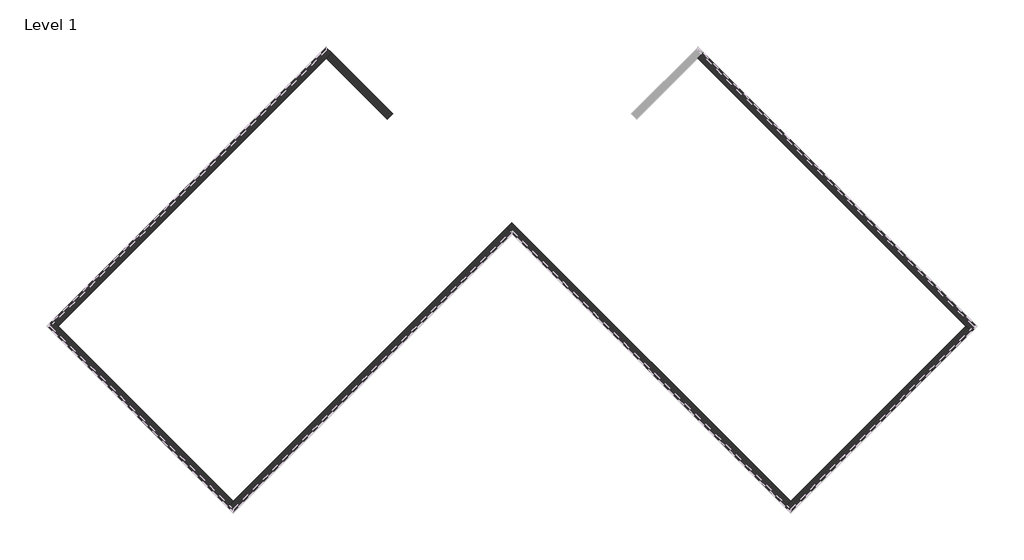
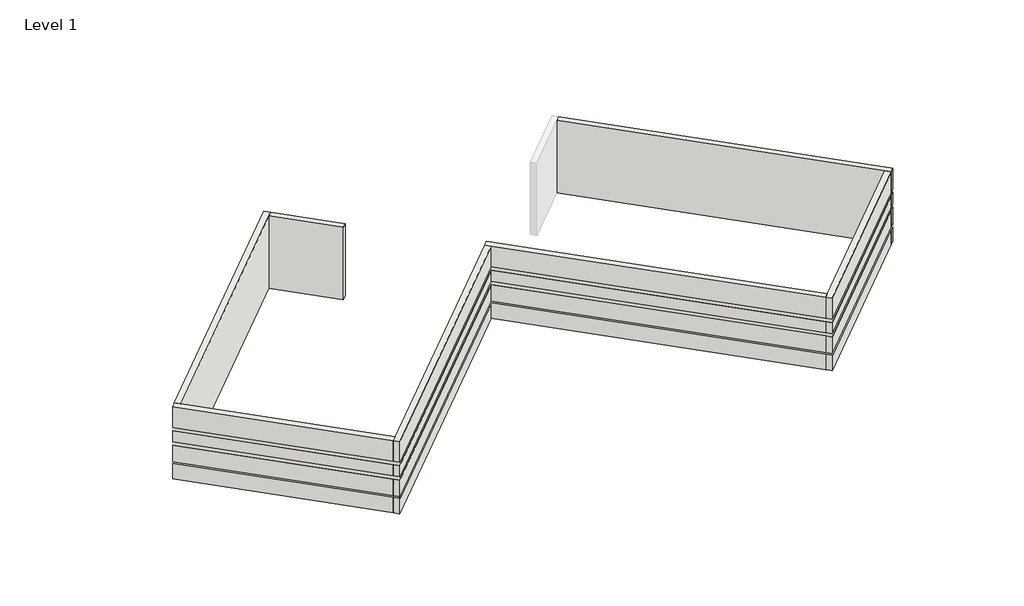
# One storey, part 1 of 2: 7 walls.
"""IFC4 building model written with IfcOpenShell, lengths in millimetres."""

from ifc_helpers import new_model, si_unit, frame, origin, place, context, project, spatial, polyline, circle_curve, faceted_brep, element, save
from ifc_brep_helpers import plane_surface, cylinder_surface, revolved_surface, advanced_brep

model = new_model("IFC4")

# Units and contexts
model_context = context("Model", 3, world=origin())
ifc_project = project(units=[si_unit("LENGTHUNIT", "METRE", prefix="MILLI")], contexts=[model_context])

# Site, building, storey
site = spatial("IfcSite", under=ifc_project)
building = spatial("IfcBuilding", under=site)
storey = spatial("IfcBuildingStorey", under=building, Name="Level 1", Elevation=0.0)

# Walls
placement = place(None, origin())
element("IfcWall", 1, ObjectType="Exterior - Split Face and CMU on Mtl. Stud", at=placement, inside=storey, context=model_context, shape_type="Brep", body=[
    faceted_brep([(5178.0352806, 10444.6887918, 0.0), (17611.1998802, -1988.4758079, 0.0), (17860.4019876, -2237.6779152, 0.0), (17860.4019876, -2237.6779152, 1016.0), (17795.2951307, -2172.5710583, 1016.0), (17795.2951307, -2172.5710583, 1085.85), (17860.4019876, -2237.6779152, 1085.85), (17860.4019876, -2237.6779152, 2133.6), (17795.2951307, -2172.5710583, 2133.6), (17795.2951307, -2172.5710583, 2336.8), (17860.4019876, -2237.6779152, 2336.8), (17860.4019876, -2237.6779152, 3048.0), (17795.2951307, -2172.5710583, 3048.0), (17795.2951307, -2172.5710583, 3251.2), (17860.4019876, -2237.6779152, 3251.2), (17860.4019876, -2237.6779152, 4572.0), (17611.1998802, -1988.4758079, 4572.0), (5178.0352806, 10444.6887918, 4572.0), (5427.237388, 10693.8908991, 4572.0), (18109.604095, -1988.4758079, 4572.0), (18109.604095, -1988.4758079, 3251.2), (5427.237388, 10693.8908991, 3251.2), (18109.604095, -1988.4758079, 0.0), (5427.237388, 10693.8908991, 0.0), (5427.237388, 10693.8908991, 1016.0), (18109.604095, -1988.4758079, 1016.0), (18109.604095, -1988.4758079, 1085.85), (5427.237388, 10693.8908991, 1085.85), (5427.237388, 10693.8908991, 2133.6), (18109.604095, -1988.4758079, 2133.6), (18109.604095, -1988.4758079, 2336.8), (5427.237388, 10693.8908991, 2336.8), (5427.237388, 10693.8908991, 3048.0), (18109.604095, -1988.4758079, 3048.0), (5362.1305311, 10628.7840422, 0.0), (18044.4972381, -2053.5826647, 0.0), (17979.3903812, -1988.4758079, 1016.0), (5362.1305311, 10628.7840422, 1016.0), (5362.1305311, 10628.7840422, 1085.85), (17979.3903812, -1988.4758079, 1085.85), (17979.3903812, -1988.4758079, 2133.6), (5362.1305311, 10628.7840422, 2133.6), (5362.1305311, 10628.7840422, 2336.8), (17979.3903812, -1988.4758079, 2336.8), (17979.3903812, -1988.4758079, 3251.2), (17979.3903812, -1988.4758079, 3048.0), (5362.1305311, 10628.7840422, 3048.0), (5362.1305311, 10628.7840422, 3251.2)], [[[0, 1, 2, 3, 4, 5, 6, 7, 8, 9, 10, 11, 12, 13, 14, 15, 16, 17]], [[18, 19, 20, 21]], [[22, 23, 24, 25]], [[26, 27, 28, 29]], [[30, 31, 32, 33]], [[17, 16, 15, 19, 18]], [[2, 1, 0, 34, 35]], [[36, 37, 38, 39]], [[40, 41, 42, 43]], [[44, 45, 46, 47]], [[0, 17, 18, 21, 47, 46, 32, 31, 42, 41, 28, 27, 38, 37, 24, 23, 34]], [[23, 22, 35, 34]], [[39, 38, 27, 26, 6, 5]], [[37, 36, 4, 3, 25, 24]], [[41, 40, 8, 7, 29, 28]], [[43, 42, 31, 30, 10, 9]], [[46, 45, 12, 11, 33, 32]], [[13, 44, 47, 21, 20, 14]], [[19, 15, 14, 20]], [[2, 35, 22, 25, 3]], [[6, 26, 29, 7]], [[10, 30, 33, 11]], [[36, 39, 5, 4]], [[40, 43, 9, 8]], [[45, 44, 13, 12]]]),
])
element("IfcWall", 2, ObjectType="Exterior - Split Face and CMU on Mtl. Stud", at=placement, inside=storey, context=model_context, shape_type="Brep", body=[
    faceted_brep([(17611.1998802, -1988.4758079, 0.0), (9488.5582187, -10111.1174694, 0.0), (9239.3561114, -10360.3195767, 0.0), (9239.3561114, -10360.3195767, 1016.0), (9304.4629682, -10295.2127199, 1016.0), (9304.4629682, -10295.2127199, 1085.85), (9239.3561114, -10360.3195767, 1085.85), (9239.3561114, -10360.3195767, 2133.6), (9304.4629682, -10295.2127199, 2133.6), (9304.4629682, -10295.2127199, 2336.8), (9239.3561114, -10360.3195767, 2336.8), (9239.3561114, -10360.3195767, 3048.0), (9304.4629682, -10295.2127199, 3048.0), (9304.4629682, -10295.2127199, 3251.2), (9239.3561114, -10360.3195767, 3251.2), (9239.3561114, -10360.3195767, 4572.0), (9488.5582187, -10111.1174694, 4572.0), (17611.1998802, -1988.4758079, 4572.0), (17860.4019876, -2237.6779152, 4572.0), (9488.5582187, -10609.5216841, 4572.0), (9488.5582187, -10609.5216841, 3251.2), (17860.4019876, -2237.6779152, 3251.2), (9488.5582187, -10609.5216841, 0.0), (17860.4019876, -2237.6779152, 0.0), (17860.4019876, -2237.6779152, 1016.0), (9488.5582187, -10609.5216841, 1016.0), (9488.5582187, -10609.5216841, 1085.85), (17860.4019876, -2237.6779152, 1085.85), (17860.4019876, -2237.6779152, 2133.6), (9488.5582187, -10609.5216841, 2133.6), (9488.5582187, -10609.5216841, 2336.8), (17860.4019876, -2237.6779152, 2336.8), (17860.4019876, -2237.6779152, 3048.0), (9488.5582187, -10609.5216841, 3048.0), (17795.2951307, -2172.5710583, 0.0), (9423.4513619, -10544.4148272, 0.0), (9488.5582187, -10479.3079703, 1016.0), (17795.2951307, -2172.5710583, 1016.0), (17795.2951307, -2172.5710583, 1085.85), (9488.5582187, -10479.3079703, 1085.85), (9488.5582187, -10479.3079703, 2133.6), (17795.2951307, -2172.5710583, 2133.6), (17795.2951307, -2172.5710583, 2336.8), (9488.5582187, -10479.3079703, 2336.8), (9488.5582187, -10479.3079703, 3251.2), (9488.5582187, -10479.3079703, 3048.0), (17795.2951307, -2172.5710583, 3048.0), (17795.2951307, -2172.5710583, 3251.2)], [[[0, 1, 2, 3, 4, 5, 6, 7, 8, 9, 10, 11, 12, 13, 14, 15, 16, 17]], [[18, 19, 20, 21]], [[22, 23, 24, 25]], [[26, 27, 28, 29]], [[30, 31, 32, 33]], [[17, 16, 15, 19, 18]], [[2, 1, 0, 34, 35]], [[36, 37, 38, 39]], [[40, 41, 42, 43]], [[44, 45, 46, 47]], [[0, 17, 18, 21, 47, 46, 32, 31, 42, 41, 28, 27, 38, 37, 24, 23, 34]], [[23, 22, 35, 34]], [[39, 38, 27, 26, 6, 5]], [[37, 36, 4, 3, 25, 24]], [[41, 40, 8, 7, 29, 28]], [[43, 42, 31, 30, 10, 9]], [[46, 45, 12, 11, 33, 32]], [[13, 44, 47, 21, 20, 14]], [[19, 15, 14, 20]], [[2, 35, 22, 25, 3]], [[6, 26, 29, 7]], [[10, 30, 33, 11]], [[36, 39, 5, 4]], [[40, 43, 9, 8]], [[45, 44, 13, 12]]]),
])
element("IfcWall", 3, ObjectType="Exterior - Split Face and CMU on Mtl. Stud", at=placement, inside=storey, context=model_context, shape_type="Brep", body=[
    faceted_brep([(9488.5582187, -10111.1174694, 0.0), (-3443.0105956, 2820.451345, 0.0), (-3443.0105956, 2820.451345, 4572.0), (9488.5582187, -10111.1174694, 4572.0), (9239.3561114, -10360.3195767, 4572.0), (-3443.0105956, 2322.0471303, 4572.0), (-3692.212703, 2571.2492376, 4572.0), (-3692.212703, 2571.2492376, 0.0), (-3443.0105956, 2322.0471303, 0.0), (9239.3561114, -10360.3195767, 0.0), (9239.3561114, -10360.3195767, 1016.0), (-3443.0105956, 2322.0471303, 1016.0), (-3508.1174525, 2387.1539871, 1016.0), (-3508.1174525, 2387.1539871, 1085.85), (-3443.0105956, 2322.0471303, 1085.85), (9239.3561114, -10360.3195767, 1085.85), (9239.3561114, -10360.3195767, 2133.6), (-3443.0105956, 2322.0471303, 2133.6), (-3508.1174525, 2387.1539871, 2133.6), (-3508.1174525, 2387.1539871, 2336.8), (-3443.0105956, 2322.0471303, 2336.8), (9239.3561114, -10360.3195767, 2336.8), (9239.3561114, -10360.3195767, 3048.0), (-3443.0105956, 2322.0471303, 3048.0), (-3508.1174525, 2387.1539871, 3048.0), (-3508.1174525, 2387.1539871, 3251.2), (-3443.0105956, 2322.0471303, 3251.2), (9239.3561114, -10360.3195767, 3251.2), (9304.4629682, -10295.2127199, 0.0), (-3627.1058461, 2636.3560945, 0.0), (-3443.0105956, 2452.260844, 1016.0), (9304.4629682, -10295.2127199, 1016.0), (9304.4629682, -10295.2127199, 1085.85), (-3443.0105956, 2452.260844, 1085.85), (-3443.0105956, 2452.260844, 2133.6), (9304.4629682, -10295.2127199, 2133.6), (9304.4629682, -10295.2127199, 2336.8), (-3443.0105956, 2452.260844, 2336.8), (-3443.0105956, 2452.260844, 3251.2), (-3443.0105956, 2452.260844, 3048.0), (9304.4629682, -10295.2127199, 3048.0), (9304.4629682, -10295.2127199, 3251.2)], [[[0, 1, 2, 3]], [[4, 5, 6, 7, 8, 9, 10, 11, 12, 13, 14, 15, 16, 17, 18, 19, 20, 21, 22, 23, 24, 25, 26, 27]], [[3, 2, 6, 5, 4]], [[1, 0, 28, 29]], [[30, 31, 32, 33]], [[34, 35, 36, 37]], [[38, 39, 40, 41]], [[0, 3, 4, 27, 41, 40, 22, 21, 36, 35, 16, 15, 32, 31, 10, 9, 28]], [[9, 8, 7, 29, 28]], [[33, 32, 15, 14, 13]], [[31, 30, 12, 11, 10]], [[35, 34, 18, 17, 16]], [[37, 36, 21, 20, 19]], [[40, 39, 24, 23, 22]], [[25, 38, 41, 27, 26]], [[2, 1, 29, 7, 6]], [[30, 33, 13, 12]], [[34, 37, 19, 18]], [[39, 38, 25, 24]]]),
])
element("IfcWall", 4, ObjectType="Exterior - Split Face and CMU on Mtl. Stud", at=placement, inside=storey, context=model_context, shape_type="Brep", body=[
    faceted_brep([(-3692.212703, 2571.2492376, 0.0), (-16374.5794099, -10111.1174694, 0.0), (-16623.7815173, -10360.3195767, 0.0), (-16623.7815173, -10360.3195767, 1016.0), (-16558.6746604, -10295.2127199, 1016.0), (-16558.6746604, -10295.2127199, 1085.85), (-16623.7815173, -10360.3195767, 1085.85), (-16623.7815173, -10360.3195767, 2133.6), (-16558.6746604, -10295.2127199, 2133.6), (-16558.6746604, -10295.2127199, 2336.8), (-16623.7815173, -10360.3195767, 2336.8), (-16623.7815173, -10360.3195767, 3048.0), (-16558.6746604, -10295.2127199, 3048.0), (-16558.6746604, -10295.2127199, 3251.2), (-16623.7815173, -10360.3195767, 3251.2), (-16623.7815173, -10360.3195767, 4572.0), (-16374.5794099, -10111.1174694, 4572.0), (-3692.212703, 2571.2492376, 4572.0), (-3443.0105956, 2322.0471303, 4572.0), (-16374.5794099, -10609.5216841, 4572.0), (-16374.5794099, -10609.5216841, 3251.2), (-3443.0105956, 2322.0471303, 3251.2), (-16374.5794099, -10609.5216841, 0.0), (-3443.0105956, 2322.0471303, 0.0), (-3443.0105956, 2322.0471303, 1016.0), (-16374.5794099, -10609.5216841, 1016.0), (-16374.5794099, -10609.5216841, 1085.85), (-3443.0105956, 2322.0471303, 1085.85), (-3443.0105956, 2322.0471303, 2133.6), (-16374.5794099, -10609.5216841, 2133.6), (-16374.5794099, -10609.5216841, 2336.8), (-3443.0105956, 2322.0471303, 2336.8), (-3443.0105956, 2322.0471303, 3048.0), (-16374.5794099, -10609.5216841, 3048.0), (-3508.1174525, 2387.1539871, 0.0), (-16439.6862668, -10544.4148272, 0.0), (-16374.5794099, -10479.3079703, 1016.0), (-3508.1174525, 2387.1539871, 1016.0), (-3508.1174525, 2387.1539871, 1085.85), (-16374.5794099, -10479.3079703, 1085.85), (-16374.5794099, -10479.3079703, 2133.6), (-3508.1174525, 2387.1539871, 2133.6), (-3508.1174525, 2387.1539871, 2336.8), (-16374.5794099, -10479.3079703, 2336.8), (-16374.5794099, -10479.3079703, 3251.2), (-16374.5794099, -10479.3079703, 3048.0), (-3508.1174525, 2387.1539871, 3048.0), (-3508.1174525, 2387.1539871, 3251.2)], [[[0, 1, 2, 3, 4, 5, 6, 7, 8, 9, 10, 11, 12, 13, 14, 15, 16, 17]], [[18, 19, 20, 21]], [[22, 23, 24, 25]], [[26, 27, 28, 29]], [[30, 31, 32, 33]], [[17, 16, 15, 19, 18]], [[2, 1, 0, 34, 35]], [[36, 37, 38, 39]], [[40, 41, 42, 43]], [[44, 45, 46, 47]], [[0, 17, 18, 21, 47, 46, 32, 31, 42, 41, 28, 27, 38, 37, 24, 23, 34]], [[23, 22, 35, 34]], [[39, 38, 27, 26, 6, 5]], [[37, 36, 4, 3, 25, 24]], [[41, 40, 8, 7, 29, 28]], [[43, 42, 31, 30, 10, 9]], [[46, 45, 12, 11, 33, 32]], [[13, 44, 47, 21, 20, 14]], [[19, 15, 14, 20]], [[2, 35, 22, 25, 3]], [[6, 26, 29, 7]], [[10, 30, 33, 11]], [[36, 39, 5, 4]], [[40, 43, 9, 8]], [[45, 44, 13, 12]]]),
])
element("IfcWall", 5, ObjectType="Exterior - Split Face and CMU on Mtl. Stud", at=placement, inside=storey, context=model_context, shape_type="Brep", body=[
    faceted_brep([(-16374.5794099, -10111.1174694, 0.0), (-24497.2210715, -1988.4758079, 0.0), (-24746.4231788, -1739.2737005, 0.0), (-24746.4231788, -1739.2737005, 1016.0), (-24681.3163219, -1804.3805574, 1016.0), (-24681.3163219, -1804.3805574, 1085.85), (-24746.4231788, -1739.2737005, 1085.85), (-24746.4231788, -1739.2737005, 2133.6), (-24681.3163219, -1804.3805574, 2133.6), (-24681.3163219, -1804.3805574, 2336.8), (-24746.4231788, -1739.2737005, 2336.8), (-24746.4231788, -1739.2737005, 3048.0), (-24681.3163219, -1804.3805574, 3048.0), (-24681.3163219, -1804.3805574, 3251.2), (-24746.4231788, -1739.2737005, 3251.2), (-24746.4231788, -1739.2737005, 4572.0), (-24497.2210715, -1988.4758079, 4572.0), (-16374.5794099, -10111.1174694, 4572.0), (-16623.7815173, -10360.3195767, 4572.0), (-24995.6252862, -1988.4758079, 4572.0), (-24995.6252862, -1988.4758079, 3251.2), (-16623.7815173, -10360.3195767, 3251.2), (-24995.6252862, -1988.4758079, 0.0), (-16623.7815173, -10360.3195767, 0.0), (-16623.7815173, -10360.3195767, 1016.0), (-24995.6252862, -1988.4758079, 1016.0), (-24995.6252862, -1988.4758079, 1085.85), (-16623.7815173, -10360.3195767, 1085.85), (-16623.7815173, -10360.3195767, 2133.6), (-24995.6252862, -1988.4758079, 2133.6), (-24995.6252862, -1988.4758079, 2336.8), (-16623.7815173, -10360.3195767, 2336.8), (-16623.7815173, -10360.3195767, 3048.0), (-24995.6252862, -1988.4758079, 3048.0), (-16558.6746604, -10295.2127199, 0.0), (-24930.5184293, -1923.368951, 0.0), (-24865.4115724, -1988.4758079, 1016.0), (-16558.6746604, -10295.2127199, 1016.0), (-16558.6746604, -10295.2127199, 1085.85), (-24865.4115724, -1988.4758079, 1085.85), (-24865.4115724, -1988.4758079, 2133.6), (-16558.6746604, -10295.2127199, 2133.6), (-16558.6746604, -10295.2127199, 2336.8), (-24865.4115724, -1988.4758079, 2336.8), (-24865.4115724, -1988.4758079, 3251.2), (-24865.4115724, -1988.4758079, 3048.0), (-16558.6746604, -10295.2127199, 3048.0), (-16558.6746604, -10295.2127199, 3251.2)], [[[0, 1, 2, 3, 4, 5, 6, 7, 8, 9, 10, 11, 12, 13, 14, 15, 16, 17]], [[18, 19, 20, 21]], [[22, 23, 24, 25]], [[26, 27, 28, 29]], [[30, 31, 32, 33]], [[17, 16, 15, 19, 18]], [[2, 1, 0, 34, 35]], [[36, 37, 38, 39]], [[40, 41, 42, 43]], [[44, 45, 46, 47]], [[0, 17, 18, 21, 47, 46, 32, 31, 42, 41, 28, 27, 38, 37, 24, 23, 34]], [[23, 22, 35, 34]], [[39, 38, 27, 26, 6, 5]], [[37, 36, 4, 3, 25, 24]], [[41, 40, 8, 7, 29, 28]], [[43, 42, 31, 30, 10, 9]], [[46, 45, 12, 11, 33, 32]], [[13, 44, 47, 21, 20, 14]], [[19, 15, 14, 20]], [[2, 35, 22, 25, 3]], [[6, 26, 29, 7]], [[10, 30, 33, 11]], [[36, 39, 5, 4]], [[40, 43, 9, 8]], [[45, 44, 13, 12]]]),
])
element("IfcWall", 6, ObjectType="Exterior - Split Face and CMU on Mtl. Stud", at=placement, inside=storey, context=model_context, shape_type="Brep", body=[
    faceted_brep([(-24497.2210715, -1988.4758079, 0.0), (-12064.0564718, 10444.6887918, 0.0), (-11814.8543645, 10693.8908991, 0.0), (-11814.8543645, 10693.8908991, 1016.0), (-11879.9612214, 10628.7840422, 1016.0), (-11879.9612214, 10628.7840422, 1085.85), (-11814.8543645, 10693.8908991, 1085.85), (-11814.8543645, 10693.8908991, 2133.6), (-11879.9612214, 10628.7840422, 2133.6), (-11879.9612214, 10628.7840422, 2336.8), (-11814.8543645, 10693.8908991, 2336.8), (-11814.8543645, 10693.8908991, 3048.0), (-11879.9612214, 10628.7840422, 3048.0), (-11879.9612214, 10628.7840422, 3251.2), (-11814.8543645, 10693.8908991, 3251.2), (-11814.8543645, 10693.8908991, 4572.0), (-12064.0564718, 10444.6887918, 4572.0), (-24497.2210715, -1988.4758079, 4572.0), (-24746.4231788, -1739.2737005, 4572.0), (-12064.0564718, 10943.0930065, 4572.0), (-12064.0564718, 10943.0930065, 3251.2), (-24746.4231788, -1739.2737005, 3251.2), (-12064.0564718, 10943.0930065, 0.0), (-24746.4231788, -1739.2737005, 0.0), (-24746.4231788, -1739.2737005, 1016.0), (-12064.0564718, 10943.0930065, 1016.0), (-12064.0564718, 10943.0930065, 1085.85), (-24746.4231788, -1739.2737005, 1085.85), (-24746.4231788, -1739.2737005, 2133.6), (-12064.0564718, 10943.0930065, 2133.6), (-12064.0564718, 10943.0930065, 2336.8), (-24746.4231788, -1739.2737005, 2336.8), (-24746.4231788, -1739.2737005, 3048.0), (-12064.0564718, 10943.0930065, 3048.0), (-24681.3163219, -1804.3805574, 0.0), (-11998.949615, 10877.9861496, 0.0), (-12064.0564718, 10812.8792927, 1016.0), (-24681.3163219, -1804.3805574, 1016.0), (-24681.3163219, -1804.3805574, 1085.85), (-12064.0564718, 10812.8792927, 1085.85), (-12064.0564718, 10812.8792927, 2133.6), (-24681.3163219, -1804.3805574, 2133.6), (-24681.3163219, -1804.3805574, 2336.8), (-12064.0564718, 10812.8792927, 2336.8), (-12064.0564718, 10812.8792927, 3251.2), (-12064.0564718, 10812.8792927, 3048.0), (-24681.3163219, -1804.3805574, 3048.0), (-24681.3163219, -1804.3805574, 3251.2)], [[[0, 1, 2, 3, 4, 5, 6, 7, 8, 9, 10, 11, 12, 13, 14, 15, 16, 17]], [[18, 19, 20, 21]], [[22, 23, 24, 25]], [[26, 27, 28, 29]], [[30, 31, 32, 33]], [[17, 16, 15, 19, 18]], [[2, 1, 0, 34, 35]], [[36, 37, 38, 39]], [[40, 41, 42, 43]], [[44, 45, 46, 47]], [[0, 17, 18, 21, 47, 46, 32, 31, 42, 41, 28, 27, 38, 37, 24, 23, 34]], [[23, 22, 35, 34]], [[39, 38, 27, 26, 6, 5]], [[37, 36, 4, 3, 25, 24]], [[41, 40, 8, 7, 29, 28]], [[43, 42, 31, 30, 10, 9]], [[46, 45, 12, 11, 33, 32]], [[13, 44, 47, 21, 20, 14]], [[19, 15, 14, 20]], [[2, 35, 22, 25, 3]], [[6, 26, 29, 7]], [[10, 30, 33, 11]], [[36, 39, 5, 4]], [[40, 43, 9, 8]], [[45, 44, 13, 12]]]),
])
element("IfcWall", 7, ObjectType="Exterior - Split Face and CMU on Mtl. Stud", at=placement, inside=storey, context=model_context, shape_type="AdvancedBrep", body=[
    advanced_brep(
    [(-12064.0564718, 10444.6887918, 0.0), (-9232.9945042, 7613.6268242, 0.0), (-9232.9945042, 7613.6268242, 4572.0), (-12064.0564718, 10444.6887918, 4572.0), (-11814.8543645, 10693.8908991, 4572.0), (-9237.4684553, 8116.50499, 4572.0), (-8988.2640035, 7867.3005381, 4572.0), (-8988.2640035, 7867.3005381, 0.0), (-9237.4684553, 8116.50499, 0.0), (-11814.8543645, 10693.8908991, 0.0), (-11814.8543645, 10693.8908991, 1016.0), (-9237.4684553, 8116.50499, 1016.0), (-9172.3610055, 8051.3975402, 1016.0), (-9172.3610055, 8051.3975402, 1085.85), (-9237.4684553, 8116.50499, 1085.85), (-11814.8543645, 10693.8908991, 1085.85), (-11814.8543645, 10693.8908991, 2133.6), (-9237.4684553, 8116.50499, 2133.6), (-9172.3610055, 8051.3975402, 2133.6), (-9172.3610055, 8051.3975402, 2336.8), (-9237.4684553, 8116.50499, 2336.8), (-11814.8543645, 10693.8908991, 2336.8), (-11814.8543645, 10693.8908991, 3048.0), (-9237.4684553, 8116.50499, 3048.0), (-9172.3610055, 8051.3975402, 3048.0), (-9172.3610055, 8051.3975402, 3251.2), (-9237.4684553, 8116.50499, 3251.2), (-11814.8543645, 10693.8908991, 3251.2), (-11879.9612214, 10628.7840422, 0.0), (-9053.2790111, 7802.1018319, 0.0), (-9237.3789518, 7986.2017727, 1016.0), (-11879.9612214, 10628.7840422, 1016.0), (-11879.9612214, 10628.7840422, 1085.85), (-9237.3789518, 7986.2017727, 1085.85), (-9237.3789518, 7986.2017727, 2133.6), (-11879.9612214, 10628.7840422, 2133.6), (-11879.9612214, 10628.7840422, 2336.8), (-9237.3789518, 7986.2017727, 2336.8), (-9237.3789518, 7986.2017727, 3251.2), (-9237.3789518, 7986.2017727, 3048.0), (-11879.9612214, 10628.7840422, 3048.0), (-11879.9612214, 10628.7840422, 3251.2)],
    [
        (0, 1),
        (1, 2),
        (2, 3),
        (3, 0),
        (4, 5),
        (5, 6),
        (6, 7),
        (7, 8),
        (8, 9),
        (9, 10),
        (10, 11),
        (11, 12),
        (12, 13),
        (13, 14),
        (14, 15),
        (15, 16),
        (16, 17),
        (17, 18),
        (18, 19),
        (19, 20),
        (20, 21),
        (21, 22),
        (22, 23),
        (23, 24),
        (24, 25),
        (25, 26),
        (26, 27),
        (27, 4),
        (2, 6, circle_curve(frame((-3443.0105956, 2272.6557216, 4572.0), z_axis=(0.0, 0.0, -1.0), x_axis=(1.0, 0.0, 0.0)), 7877.175)),
        (4, 3),
        (0, 28),
        (28, 29),
        (29, 1, circle_curve(frame((-3443.0105956, 2272.6557216, 0.0), z_axis=(0.0, 0.0, 1.0), x_axis=(1.0, 0.0, 0.0)), 7877.175)),
        (30, 31),
        (31, 32),
        (32, 33),
        (33, 30),
        (34, 35),
        (35, 36),
        (36, 37),
        (37, 34),
        (38, 39),
        (39, 40),
        (40, 41),
        (41, 38),
        (27, 41),
        (40, 22),
        (21, 36),
        (35, 16),
        (15, 32),
        (31, 10),
        (9, 28),
        (7, 29, circle_curve(frame((-3443.0105956, 2272.6557216, 0.0), z_axis=(0.0, 0.0, 1.0), x_axis=(1.0, 0.0, 0.0)), 7877.175)),
        (13, 33, circle_curve(frame((-3443.0105956, 2272.6557216, 1085.85), z_axis=(0.0, 0.0, 1.0), x_axis=(-0.7040995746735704, 0.7101012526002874, 0.0)), 8137.525)),
        (30, 12, circle_curve(frame((-3443.0105956, 2272.6557216, 1016.0), z_axis=(0.0, 0.0, -1.0), x_axis=(-0.7040995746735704, 0.7101012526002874, 0.0)), 8137.525)),
        (34, 18, circle_curve(frame((-3443.0105956, 2272.6557216, 2133.6), z_axis=(0.0, 0.0, -1.0), x_axis=(-0.712055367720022, 0.7021233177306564, 0.0)), 8137.525)),
        (37, 19, circle_curve(frame((-3443.0105956, 2272.6557216, 2336.8), z_axis=(0.0, 0.0, -1.0), x_axis=(-0.712055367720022, 0.7021233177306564, 0.0)), 8137.525)),
        (39, 24, circle_curve(frame((-3443.0105956, 2272.6557216, 3048.0), z_axis=(0.0, 0.0, -1.0), x_axis=(-0.712055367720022, 0.7021233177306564, 0.0)), 8137.525)),
        (38, 25, circle_curve(frame((-3443.0105956, 2272.6557216, 3251.2), z_axis=(0.0, 0.0, -1.0), x_axis=(-0.712055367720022, 0.7021233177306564, 0.0)), 8137.525)),
    ],
    [
        plane_surface(frame((-12313.2585792, 10693.8908991, 0.0), z_axis=(-0.707106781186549, -0.7071067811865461, 0.0), x_axis=(0.7071067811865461, -0.707106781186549, 0.0))),
        plane_surface(frame((-12064.0564718, 10943.0930065, 0.0), z_axis=(0.707106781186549, 0.7071067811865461, 0.0), x_axis=(-0.7071067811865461, 0.707106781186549, 0.0))),
        plane_surface(frame((-9361.2454813, 7741.8778012, 4572.0), z_axis=(0.0, 0.0, 1.0), x_axis=(0.7071067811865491, 0.707106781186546, 0.0))),
        plane_surface(frame((-12188.6575255, 10569.2898454, 0.0), z_axis=(0.0, 0.0, -1.0), x_axis=(0.7071067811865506, 0.7071067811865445, 0.0))),
        plane_surface(frame((-12064.0564718, 10812.8792927, 1016.0), z_axis=(0.707106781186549, 0.707106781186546, 0.0), x_axis=(0.707106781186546, -0.707106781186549, 0.0))),
        plane_surface(frame((-12064.0564718, 10812.8792927, 2133.6), z_axis=(0.7071067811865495, 0.7071067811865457, 0.0), x_axis=(0.7071067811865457, -0.7071067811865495, 0.0))),
        plane_surface(frame((-12064.0564718, 10812.8792927, 3048.0), z_axis=(0.7071067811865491, 0.7071067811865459, 0.0), x_axis=(0.7071067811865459, -0.7071067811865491, 0.0))),
        plane_surface(frame((-24746.4231788, -2237.6779152, 0.0), z_axis=(-0.7071067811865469, 0.7071067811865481, 0.0), x_axis=(0.7071067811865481, 0.7071067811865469, 0.0))),
        plane_surface(frame((0.0, 0.0, 0.0), z_axis=(0.0, 0.0, -1.0), x_axis=(1.0, 0.0, 0.0))),
        revolved_surface(polyline([(4434.1644044, 2272.6557216, 0.0), (4434.1644044, 2272.6557216, 4572.0)]), (-3443.0105956, 2272.6557216, 0.0), (0.0, 0.0, -1.0)),
        plane_surface(frame((-3443.0105956, 2272.6557216, 1085.85), z_axis=(0.0, 0.0, -1.0), x_axis=(-0.7040995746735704, 0.7101012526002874, 0.0))),
        plane_surface(frame((-3443.0105956, 2272.6557216, 1016.0), z_axis=(0.0, 0.0, 1.0), x_axis=(-0.7040995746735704, 0.7101012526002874, 0.0))),
        cylinder_surface(frame((-3443.0105956, 2272.6557216, 1016.0), z_axis=(0.0, 0.0, -1.0), x_axis=(-0.7040995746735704, 0.7101012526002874, 0.0)), 8137.525),
        plane_surface(frame((-3443.0105956, 2272.6557216, 2133.6), z_axis=(0.0, 0.0, 1.0), x_axis=(-0.712055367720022, 0.7021233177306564, 0.0))),
        cylinder_surface(frame((-3443.0105956, 2272.6557216, 2133.6), z_axis=(0.0, 0.0, -1.0), x_axis=(-0.712055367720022, 0.7021233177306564, 0.0)), 8137.525),
        plane_surface(frame((-3443.0105956, 2272.6557216, 2336.8), z_axis=(0.0, 0.0, -1.0), x_axis=(-0.712055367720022, 0.7021233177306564, 0.0))),
        plane_surface(frame((-3443.0105956, 2272.6557216, 3048.0), z_axis=(0.0, 0.0, 1.0), x_axis=(-0.712055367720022, 0.7021233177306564, 0.0))),
        cylinder_surface(frame((-3443.0105956, 2272.6557216, 3048.0), z_axis=(0.0, 0.0, -1.0), x_axis=(-0.712055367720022, 0.7021233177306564, 0.0)), 8137.525),
        plane_surface(frame((-3443.0105956, 2272.6557216, 3251.2), z_axis=(0.0, 0.0, -1.0), x_axis=(-0.712055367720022, 0.7021233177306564, 0.0))),
    ],
    [
        (0, [[1, 2, 3, 4]]),
        (1, [[5, 6, 7, 8, 9, 10, 11, 12, 13, 14, 15, 16, 17, 18, 19, 20, 21, 22, 23, 24, 25, 26, 27, 28]]),
        (2, [[-3, 29, -6, -5, 30]]),
        (3, [[-1, 31, 32, 33]]),
        (4, [[34, 35, 36, 37]]),
        (5, [[38, 39, 40, 41]]),
        (6, [[42, 43, 44, 45]]),
        (7, [[-4, -30, -28, 46, -44, 47, -22, 48, -39, 49, -16, 50, -35, 51, -10, 52, -31]]),
        (8, [[-9, -8, 53, -32, -52]]),
        (9, [[-2, -33, -53, -7, -29]]),
        (10, [[-36, -50, -15, -14, 54]]),
        (11, [[-34, 55, -12, -11, -51]]),
        (12, [[-37, -54, -13, -55]]),
        (13, [[-38, 56, -18, -17, -49]]),
        (14, [[-41, 57, -19, -56]]),
        (15, [[-40, -48, -21, -20, -57]]),
        (16, [[-43, 58, -24, -23, -47]]),
        (17, [[-42, 59, -25, -58]]),
        (18, [[-59, -45, -46, -27, -26]]),
    ],
),
])

save(model, "model.ifc")
